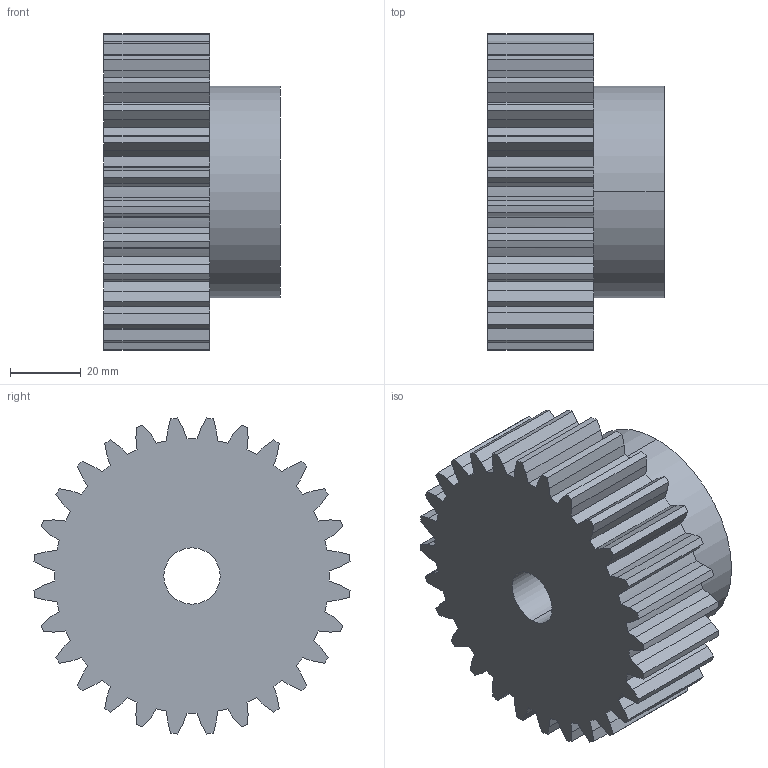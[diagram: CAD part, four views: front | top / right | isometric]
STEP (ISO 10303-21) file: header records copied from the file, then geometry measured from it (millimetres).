
FILE_DESCRIPTION (( 'STEP AP203' ), '1' );
FILE_NAME ('PM 30028.STEP', '2013-09-25T13:52:14', ( '' ), ( '' ), 'SwSTEP 2.0', 'SolidWorks 2010', '' );
FILE_SCHEMA (( 'CONFIG_CONTROL_DESIGN' ));
Length unit declared in the file: millimetre
Products named in the file (1): PM 30028
Bounding box: 50 x 89.64 x 89.64 mm (x, y, z)
Volume: 210688.3 mm3; surface area: 31718.8 mm2
Topology: 1 solids, 1 shells, 175 faces, 516 edges, 344 vertices
Faces by surface type: plane 115, cylinder 60
Entity records: 6023 total; most frequent: CARTESIAN_POINT 1468, ORIENTED_EDGE 1032, DIRECTION 812, EDGE_CURVE 516, VERTEX_POINT 344, VECTOR 284, LINE 284, AXIS2_PLACEMENT_3D 264
